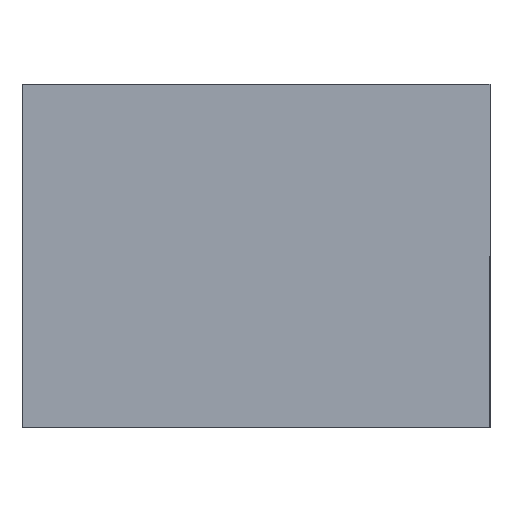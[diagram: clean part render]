
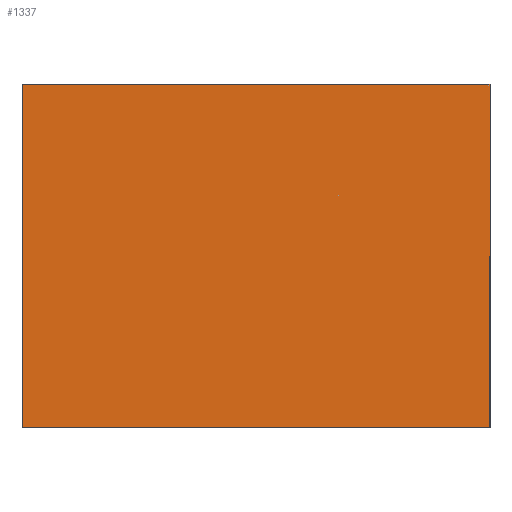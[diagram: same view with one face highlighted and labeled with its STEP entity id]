
A CAD part, front view. The second image highlights one B-rep face of the part: STEP entity #1337.
In plain terms, the highlighted planar face has unit normal (0, -1, 0).
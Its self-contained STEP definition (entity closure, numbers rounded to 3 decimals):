
#174 = LINE ( 'NONE', #1488, #1157 ) ;
#231 = LINE ( 'NONE', #2023, #2238 ) ;
#249 = AXIS2_PLACEMENT_3D ( 'NONE', #1104, #318, #1665 ) ;
#298 = DIRECTION ( 'NONE',  ( -1., 0., 0. ) ) ;
#318 = DIRECTION ( 'NONE',  ( 0., 1., 0. ) ) ;
#320 = DIRECTION ( 'NONE',  ( 0., 0., -1. ) ) ;
#492 = EDGE_CURVE ( 'NONE', #637, #1794, #1857, .T. ) ;
#504 = ORIENTED_EDGE ( 'NONE', *, *, #1350, .F. ) ;
#637 = VERTEX_POINT ( 'NONE', #1034 ) ;
#734 = CARTESIAN_POINT ( 'NONE',  ( 37.5, 0., 27.5 ) ) ;
#797 = EDGE_CURVE ( 'NONE', #1566, #637, #1336, .T. ) ;
#868 = EDGE_CURVE ( 'NONE', #1447, #1566, #174, .T. ) ;
#911 = DIRECTION ( 'NONE',  ( 1., 0., 0. ) ) ;
#986 = DIRECTION ( 'NONE',  ( 0., 0., 1. ) ) ;
#1034 = CARTESIAN_POINT ( 'NONE',  ( -37.5, 0., -27.5 ) ) ;
#1104 = CARTESIAN_POINT ( 'NONE',  ( 0., 0., 0. ) ) ;
#1157 = VECTOR ( 'NONE', #320, 1000. ) ;
#1181 = ORIENTED_EDGE ( 'NONE', *, *, #868, .F. ) ;
#1278 = FACE_OUTER_BOUND ( 'NONE', #1413, .T. ) ;
#1336 = LINE ( 'NONE', #2339, #1768 ) ;
#1337 = ADVANCED_FACE ( 'NONE', ( #1278 ), #2018, .F. ) ;
#1350 = EDGE_CURVE ( 'NONE', #1794, #1447, #231, .T. ) ;
#1413 = EDGE_LOOP ( 'NONE', ( #1181, #504, #1534, #2014 ) ) ;
#1447 = VERTEX_POINT ( 'NONE', #734 ) ;
#1488 = CARTESIAN_POINT ( 'NONE',  ( 37.5, 0., -27.5 ) ) ;
#1534 = ORIENTED_EDGE ( 'NONE', *, *, #492, .F. ) ;
#1566 = VERTEX_POINT ( 'NONE', #2061 ) ;
#1567 = CARTESIAN_POINT ( 'NONE',  ( -37.5, 0., -27.5 ) ) ;
#1665 = DIRECTION ( 'NONE',  ( 0., 0., 1. ) ) ;
#1768 = VECTOR ( 'NONE', #298, 1000. ) ;
#1782 = CARTESIAN_POINT ( 'NONE',  ( -37.5, 0., 27.5 ) ) ;
#1794 = VERTEX_POINT ( 'NONE', #1782 ) ;
#1857 = LINE ( 'NONE', #1567, #1909 ) ;
#1909 = VECTOR ( 'NONE', #986, 1000. ) ;
#2014 = ORIENTED_EDGE ( 'NONE', *, *, #797, .F. ) ;
#2018 = PLANE ( 'NONE',  #249 ) ;
#2023 = CARTESIAN_POINT ( 'NONE',  ( -37.5, 0., 27.5 ) ) ;
#2061 = CARTESIAN_POINT ( 'NONE',  ( 37.5, 0., -27.5 ) ) ;
#2238 = VECTOR ( 'NONE', #911, 1000. ) ;
#2339 = CARTESIAN_POINT ( 'NONE',  ( -37.5, 0., -27.5 ) ) ;
